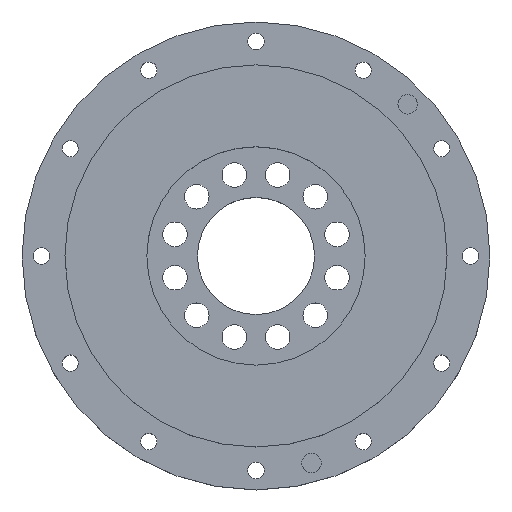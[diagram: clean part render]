
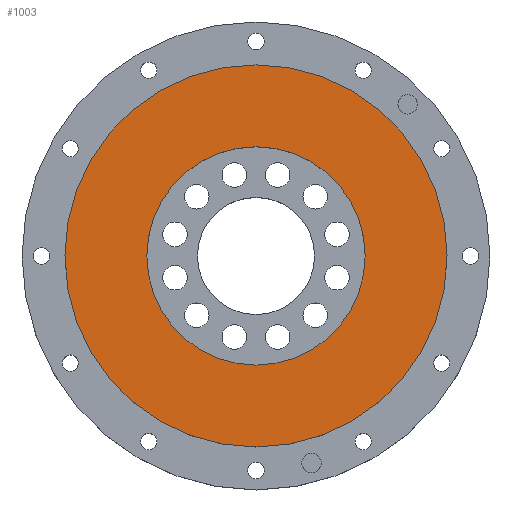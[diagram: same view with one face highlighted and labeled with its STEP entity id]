
A CAD part, top view. The second image highlights one B-rep face of the part: STEP entity #1003.
In plain terms, the highlighted planar face has unit normal (0, 0, 1).
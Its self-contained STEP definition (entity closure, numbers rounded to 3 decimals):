
#15 = CIRCLE ( 'NONE', #2814, 49. ) ;
#46 = DIRECTION ( 'NONE',  ( 1., 0., 0. ) ) ;
#87 = DIRECTION ( 'NONE',  ( 0., 0., 1. ) ) ;
#109 = VERTEX_POINT ( 'NONE', #2877 ) ;
#142 = EDGE_CURVE ( 'NONE', #109, #1647, #2906, .T. ) ;
#208 = ORIENTED_EDGE ( 'NONE', *, *, #142, .F. ) ;
#317 = CARTESIAN_POINT ( 'NONE',  ( -49., 0., 20. ) ) ;
#366 = CARTESIAN_POINT ( 'NONE',  ( 0., 0., 20. ) ) ;
#385 = DIRECTION ( 'NONE',  ( 0., 0., 1. ) ) ;
#551 = EDGE_CURVE ( 'NONE', #646, #2694, #15, .T. ) ;
#646 = VERTEX_POINT ( 'NONE', #1464 ) ;
#693 = CIRCLE ( 'NONE', #1457, 28. ) ;
#958 = ORIENTED_EDGE ( 'NONE', *, *, #1919, .F. ) ;
#1003 = ADVANCED_FACE ( 'NONE', ( #1579, #2464 ), #2976, .T. ) ;
#1024 = AXIS2_PLACEMENT_3D ( 'NONE', #366, #2451, #2726 ) ;
#1044 = ORIENTED_EDGE ( 'NONE', *, *, #1201, .T. ) ;
#1055 = CARTESIAN_POINT ( 'NONE',  ( 28., 0., 20. ) ) ;
#1201 = EDGE_CURVE ( 'NONE', #2694, #646, #2965, .T. ) ;
#1245 = AXIS2_PLACEMENT_3D ( 'NONE', #1791, #385, #1330 ) ;
#1330 = DIRECTION ( 'NONE',  ( 1., 0., 0. ) ) ;
#1457 = AXIS2_PLACEMENT_3D ( 'NONE', #2352, #1901, #2115 ) ;
#1464 = CARTESIAN_POINT ( 'NONE',  ( 49., 0., 20. ) ) ;
#1468 = CARTESIAN_POINT ( 'NONE',  ( 0., 0., 20. ) ) ;
#1526 = EDGE_LOOP ( 'NONE', ( #1606, #1044 ) ) ;
#1579 = FACE_BOUND ( 'NONE', #1580, .T. ) ;
#1580 = EDGE_LOOP ( 'NONE', ( #958, #208 ) ) ;
#1606 = ORIENTED_EDGE ( 'NONE', *, *, #551, .T. ) ;
#1647 = VERTEX_POINT ( 'NONE', #1055 ) ;
#1786 = CARTESIAN_POINT ( 'NONE',  ( 0., 0., 20. ) ) ;
#1791 = CARTESIAN_POINT ( 'NONE',  ( 0., 0., 20. ) ) ;
#1901 = DIRECTION ( 'NONE',  ( 0., 0., 1. ) ) ;
#1919 = EDGE_CURVE ( 'NONE', #1647, #109, #693, .T. ) ;
#2080 = AXIS2_PLACEMENT_3D ( 'NONE', #1468, #87, #46 ) ;
#2115 = DIRECTION ( 'NONE',  ( 1., 0., 0. ) ) ;
#2352 = CARTESIAN_POINT ( 'NONE',  ( 0., 0., 20. ) ) ;
#2451 = DIRECTION ( 'NONE',  ( 0., 0., 1. ) ) ;
#2464 = FACE_OUTER_BOUND ( 'NONE', #1526, .T. ) ;
#2488 = DIRECTION ( 'NONE',  ( 0., 0., 1. ) ) ;
#2694 = VERTEX_POINT ( 'NONE', #317 ) ;
#2726 = DIRECTION ( 'NONE',  ( 1., 0., 0. ) ) ;
#2814 = AXIS2_PLACEMENT_3D ( 'NONE', #1786, #2488, #2939 ) ;
#2877 = CARTESIAN_POINT ( 'NONE',  ( -28., 0., 20. ) ) ;
#2906 = CIRCLE ( 'NONE', #1245, 28. ) ;
#2939 = DIRECTION ( 'NONE',  ( 1., 0., 0. ) ) ;
#2965 = CIRCLE ( 'NONE', #2080, 49. ) ;
#2976 = PLANE ( 'NONE',  #1024 ) ;
